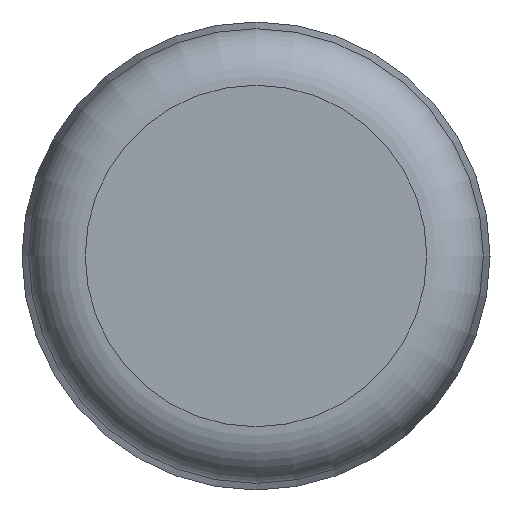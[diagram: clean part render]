
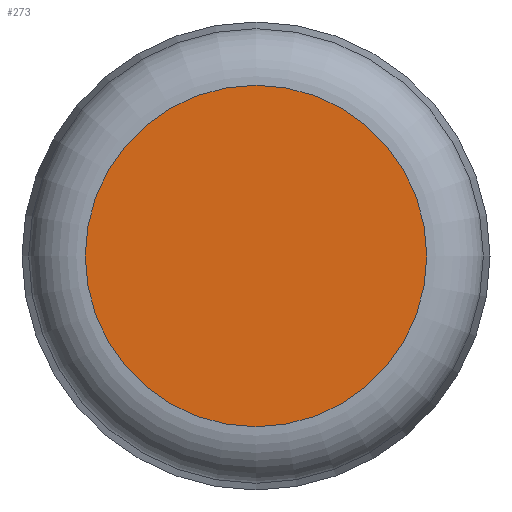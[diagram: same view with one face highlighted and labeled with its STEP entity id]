
A CAD part, left-side view. The second image highlights one B-rep face of the part: STEP entity #273.
In plain terms, the highlighted planar face has unit normal (-1, 0, 0).
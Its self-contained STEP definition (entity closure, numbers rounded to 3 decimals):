
#17=PLANE('',#318);
#32=FACE_OUTER_BOUND('',#50,.T.);
#50=EDGE_LOOP('',(#187));
#91=CIRCLE('',#317,14.959);
#118=VERTEX_POINT('',#472);
#144=EDGE_CURVE('',#118,#118,#91,.T.);
#187=ORIENTED_EDGE('',*,*,#144,.F.);
#273=ADVANCED_FACE('',(#32),#17,.T.);
#317=AXIS2_PLACEMENT_3D('',#474,#377,#378);
#318=AXIS2_PLACEMENT_3D('',#475,#379,#380);
#377=DIRECTION('center_axis',(1.,0.,0.));
#378=DIRECTION('ref_axis',(0.,-1.,0.));
#379=DIRECTION('center_axis',(-1.,0.,0.));
#380=DIRECTION('ref_axis',(0.,0.,1.));
#472=CARTESIAN_POINT('',(0.,0.,14.959));
#474=CARTESIAN_POINT('Origin',(0.,0.,0.));
#475=CARTESIAN_POINT('Origin',(0.,19.305,0.));
